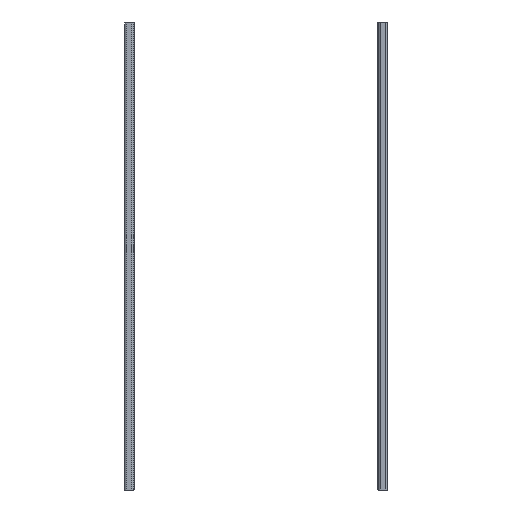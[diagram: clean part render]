
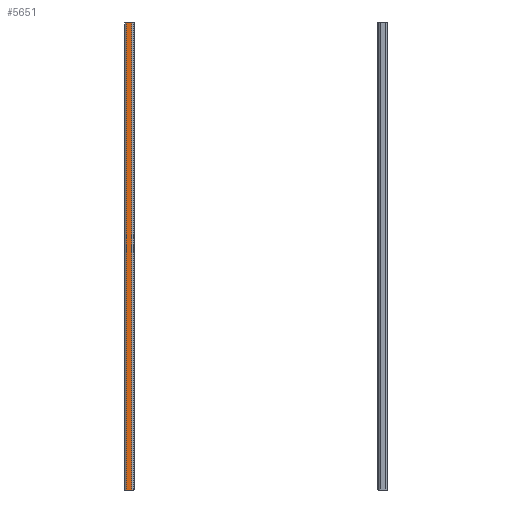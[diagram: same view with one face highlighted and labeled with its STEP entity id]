
A CAD part, front view. The second image highlights one B-rep face of the part: STEP entity #5651.
In plain terms, the highlighted planar face has unit normal (0, -1, 0).
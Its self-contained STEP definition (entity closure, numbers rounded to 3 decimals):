
#700=LINE('',#8552,#1198);
#858=LINE('',#8990,#1356);
#859=LINE('',#8993,#1357);
#860=LINE('',#8994,#1358);
#1198=VECTOR('',#6841,7.4);
#1356=VECTOR('',#7339,650.);
#1357=VECTOR('',#7342,7.4);
#1358=VECTOR('',#7343,650.);
#1618=PLANE('',#6108);
#1835=FACE_OUTER_BOUND('',#2169,.T.);
#2169=EDGE_LOOP('',(#4875,#4876,#4877,#4878));
#2817=VERTEX_POINT('',#8549);
#2818=VERTEX_POINT('',#8551);
#2928=VERTEX_POINT('',#8988);
#2929=VERTEX_POINT('',#8992);
#3399=EDGE_CURVE('',#2817,#2818,#700,.T.);
#3615=EDGE_CURVE('',#2928,#2817,#858,.T.);
#3616=EDGE_CURVE('',#2928,#2929,#859,.T.);
#3617=EDGE_CURVE('',#2818,#2929,#860,.T.);
#4875=ORIENTED_EDGE('',*,*,#3615,.F.);
#4876=ORIENTED_EDGE('',*,*,#3616,.T.);
#4877=ORIENTED_EDGE('',*,*,#3617,.F.);
#4878=ORIENTED_EDGE('',*,*,#3399,.F.);
#5651=ADVANCED_FACE('',(#1835),#1618,.T.);
#6108=AXIS2_PLACEMENT_3D('',#8991,#7340,#7341);
#6841=DIRECTION('',(-1.,0.,0.));
#7339=DIRECTION('',(0.,0.,-1.));
#7340=DIRECTION('center_axis',(0.,-1.,0.));
#7341=DIRECTION('ref_axis',(-1.,0.,0.));
#7342=DIRECTION('',(-1.,0.,0.));
#7343=DIRECTION('',(0.,0.,1.));
#8549=CARTESIAN_POINT('',(9.4,-22.25,-650.));
#8551=CARTESIAN_POINT('',(2.,-22.25,-650.));
#8552=CARTESIAN_POINT('',(11.4,-22.25,-650.));
#8988=CARTESIAN_POINT('',(9.4,-22.25,0.));
#8990=CARTESIAN_POINT('',(9.4,-22.25,0.));
#8991=CARTESIAN_POINT('Origin',(11.4,-22.25,0.));
#8992=CARTESIAN_POINT('',(2.,-22.25,0.));
#8993=CARTESIAN_POINT('',(11.4,-22.25,0.));
#8994=CARTESIAN_POINT('',(2.,-22.25,0.));
